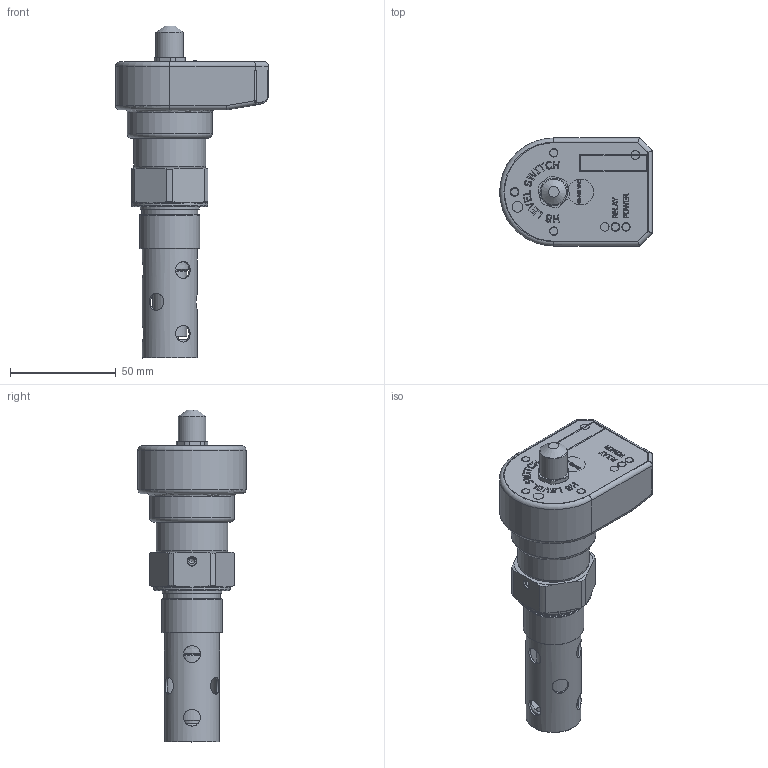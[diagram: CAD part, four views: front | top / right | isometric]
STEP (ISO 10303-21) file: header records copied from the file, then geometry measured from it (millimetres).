
FILE_DESCRIPTION((''),'2;1');
FILE_NAME('R:\Mekanisk design\HBSO-HV\5. STEP files\HBSO-SSR-7.stp','2015-06-19T12:56:48',('kc'),(''),'Autodesk Inventor 2013','Autodesk Inventor 2013','');
FILE_SCHEMA(('AUTOMOTIVE_DESIGN { 1 0 10303 214 1 1 1 1 }'));
Length unit declared in the file: millimetre
Products named in the file (1): HBSO-SSR-7
Bounding box: 72 x 51 x 156.7 mm (x, y, z)
Volume: 210539.2 mm3; surface area: 64464.5 mm2
Topology: 29 solids, 29 shells, 1260 faces, 3188 edges, 2051 vertices
Faces by surface type: plane 721, cylinder 215, bspline 181, cone 72, torus 64, sphere 7
Full cylindrical faces by diameter (mm): 0.5 x2, 1.003 x1, 1.8 x2, 2.459 x2, 2.729 x1, 2.8 x1, 2.83 x1, 3 x1, 3.2 x1, 3.242 x1, 3.5 x2, 3.6 x5, 3.8 x1, 4 x20, 4.134 x4, 4.2 x1, 4.7 x1, 5 x2, 6 x5, 6.1 x1, 6.2 x1, 6.3 x1, 6.647 x1, 8 x13, 9.55 x1, 9.7 x1, 10 x1, 10.5 x2, 10.55 x2, 11.5 x1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
Entity records: 43780 total; most frequent: CARTESIAN_POINT 14386, ORIENTED_EDGE 5824, DIRECTION 5185, EDGE_CURVE 2912, VERTEX_POINT 1957, AXIS2_PLACEMENT_3D 1733, VECTOR 1719, LINE 1719
